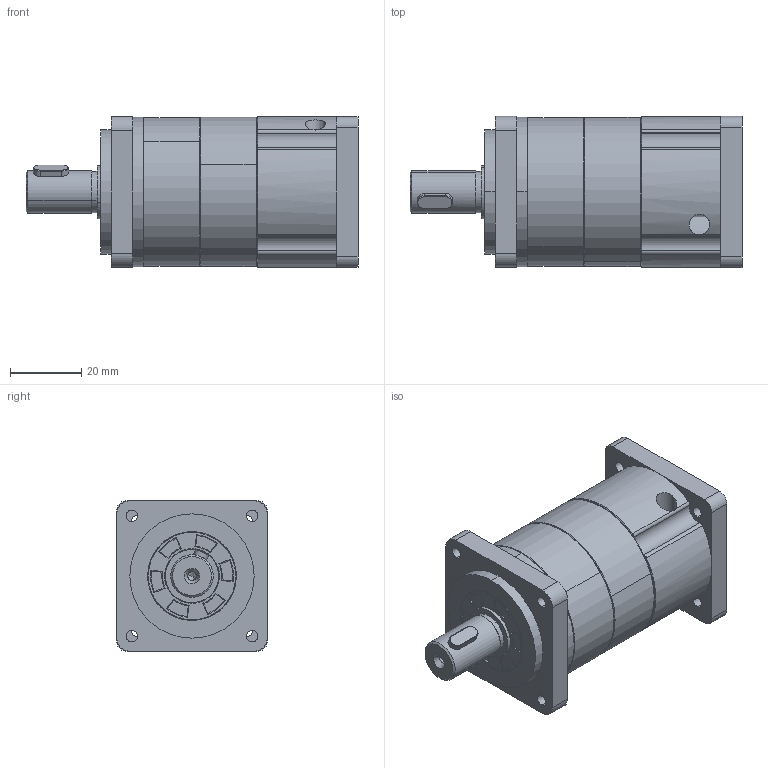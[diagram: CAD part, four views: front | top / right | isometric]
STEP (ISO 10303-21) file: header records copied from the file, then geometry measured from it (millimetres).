
FILE_DESCRIPTION (( 'STEP AP214' ), '1' );
FILE_NAME ('S42-L2(²½ßM).STEP', '2017-06-14T07:20:41', ( '' ), ( '' ), 'SwSTEP 2.0', 'SolidWorks 2015', '' );
FILE_SCHEMA (( 'AUTOMOTIVE_DESIGN' ));
Length unit declared in the file: millimetre
Products named in the file (8): S42-L2(祭筳); S42-入力軸-5.0; S42-ヶ屳; S42-堤薯嵞(螹); S42-內齒環; 蚐猾_VC 15-25-4; 4x4x10潬; S42-摽屳(祭筳)
Assembly tree (8 placements, depth 2):
  S42-L2(祭筳)
    S42-摽屳(祭筳)
    S42-堤薯嵞(螹)
    S42-內齒環  x2
    S42-ヶ屳
    S42-入力軸-5.0
    4x4x10潬
    蚐猾_VC 15-25-4
Bounding box: 93.5 x 42.5 x 42.5 mm (x, y, z)
Volume: 63798.3 mm3; surface area: 32749.2 mm2
Topology: 8 solids, 8 shells, 317 faces, 737 edges, 466 vertices
Faces by surface type: cylinder 152, plane 83, cone 66, bspline 16
Entity records: 9525 total; most frequent: CARTESIAN_POINT 2269, DIRECTION 1543, ORIENTED_EDGE 1374, EDGE_CURVE 687, AXIS2_PLACEMENT_3D 626, VERTEX_POINT 438, EDGE_LOOP 359, CIRCLE 338
